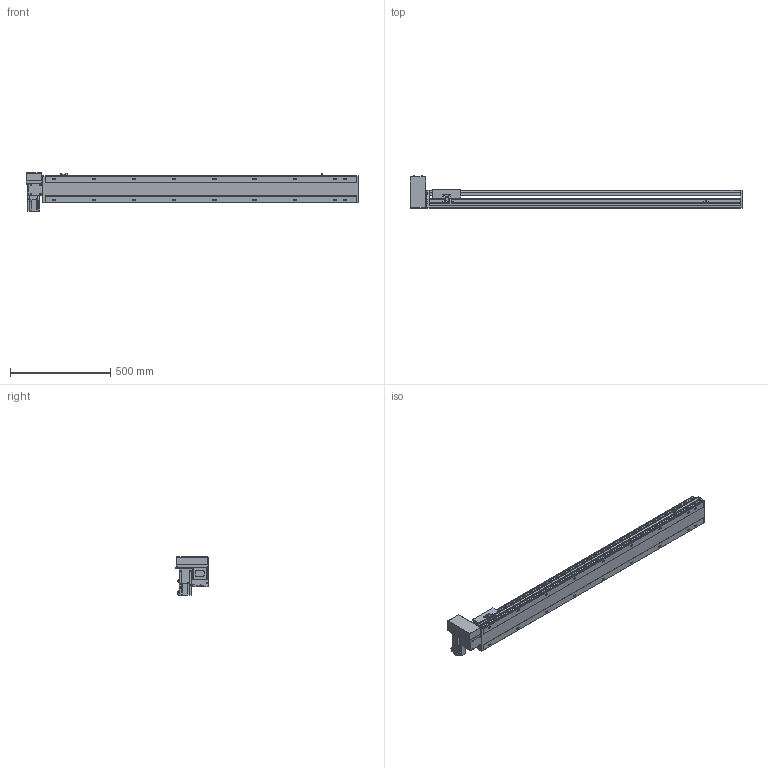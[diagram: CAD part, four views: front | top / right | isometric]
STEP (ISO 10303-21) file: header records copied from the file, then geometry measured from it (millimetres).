
FILE_DESCRIPTION( ( 'STEP AP214' ), '1' );
FILE_NAME( 'x:/temp/worker_6/temp/exporttempdir_5396_216_rqOJr/format_0/PBS140S-P40-S1300-RU-T40-C1-N(0).stp', '2022-06-09T00:55:10', ( 'License CC BY-ND 4.0' ), ( 'CADENAS' ), ' ', 'PARTsolutions', ' ' );
FILE_SCHEMA( ( 'AUTOMOTIVE_DESIGN { 1 0 10303 214 1 1 1 1 }' ) );
Length unit declared in the file: millimetre
Products named in the file (7): PBS140S-P40-S1300-RU-T40-C1-N(0); _PBS140S-S1300()_body; _PBS140ST-RU_motors; _T40-p1; _PBS140S_sliser; _PBS140S_plant; _PBS140S_sensor
Assembly tree (8 placements, depth 2):
  PBS140S-P40-S1300-RU-T40-C1-N(0)
    _PBS140S-S1300()_body
    _PBS140ST-RU_motors
    _T40-p1
    _PBS140S_sliser
    _PBS140S_plant
    _PBS140S_sensor  x3
Bounding box: 1654 x 162.5 x 189.7 mm (x, y, z)
Volume: 8403989.8 mm3; surface area: 1443294.9 mm2
Topology: 8 solids, 8 shells, 1115 faces, 2951 edges, 1931 vertices
Faces by surface type: plane 708, cylinder 353, cone 44, sphere 8, torus 2
Full cylindrical faces by diameter (mm): 3.242 x4, 4 x2, 4.134 x4, 4.4 x8, 4.5 x2, 4.8 x4, 4.917 x26, 5.5 x7, 6 x2, 7 x20, 7.5 x8, 8 x12, 8.5 x4, 10.5 x18, 14 x1, 30 x2, 50 x2
Entity records: 40978 total; most frequent: CARTESIAN_POINT 6574, DIRECTION 5418, ORIENTED_EDGE 5122, EDGE_CURVE 2561, AXIS2_PLACEMENT_3D 1889, VERTEX_POINT 1777, LINE 1640, VECTOR 1640
